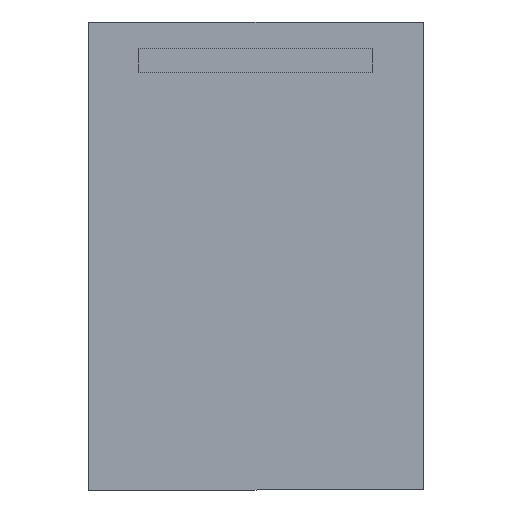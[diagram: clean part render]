
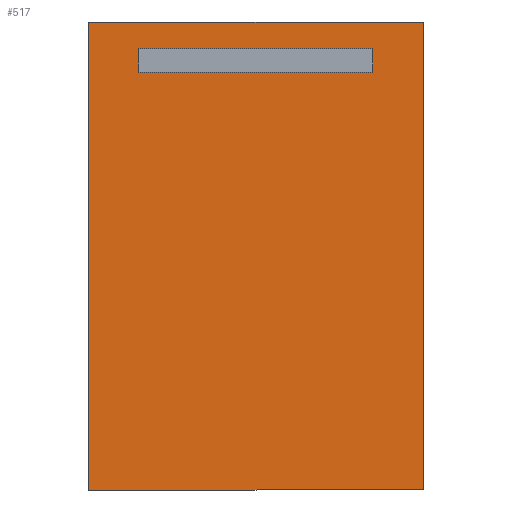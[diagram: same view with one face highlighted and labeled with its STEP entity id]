
A CAD part, front view. The second image highlights one B-rep face of the part: STEP entity #517.
In plain terms, the highlighted planar face has unit normal (0, -1, 0).
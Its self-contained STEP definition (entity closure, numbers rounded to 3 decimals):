
#47=FACE_BOUND('',#92,.T.);
#62=FACE_OUTER_BOUND('',#91,.T.);
#91=EDGE_LOOP('',(#359,#360,#361,#362));
#92=EDGE_LOOP('',(#363,#364,#365,#366));
#115=LINE('',#766,#159);
#119=LINE('',#774,#163);
#122=LINE('',#780,#166);
#125=LINE('',#785,#169);
#127=LINE('',#791,#171);
#131=LINE('',#799,#175);
#134=LINE('',#805,#178);
#137=LINE('',#810,#181);
#159=VECTOR('',#614,10.);
#163=VECTOR('',#620,10.);
#166=VECTOR('',#625,10.);
#169=VECTOR('',#630,10.);
#171=VECTOR('',#636,10.);
#175=VECTOR('',#642,10.);
#178=VECTOR('',#647,10.);
#181=VECTOR('',#652,10.);
#203=VERTEX_POINT('',#764);
#204=VERTEX_POINT('',#765);
#207=VERTEX_POINT('',#773);
#209=VERTEX_POINT('',#779);
#211=VERTEX_POINT('',#789);
#212=VERTEX_POINT('',#790);
#215=VERTEX_POINT('',#798);
#217=VERTEX_POINT('',#804);
#251=EDGE_CURVE('',#203,#204,#115,.T.);
#255=EDGE_CURVE('',#207,#203,#119,.T.);
#258=EDGE_CURVE('',#209,#207,#122,.T.);
#261=EDGE_CURVE('',#204,#209,#125,.T.);
#263=EDGE_CURVE('',#211,#212,#127,.T.);
#267=EDGE_CURVE('',#215,#211,#131,.T.);
#270=EDGE_CURVE('',#217,#215,#134,.T.);
#273=EDGE_CURVE('',#212,#217,#137,.T.);
#359=ORIENTED_EDGE('',*,*,#273,.F.);
#360=ORIENTED_EDGE('',*,*,#263,.F.);
#361=ORIENTED_EDGE('',*,*,#267,.F.);
#362=ORIENTED_EDGE('',*,*,#270,.F.);
#363=ORIENTED_EDGE('',*,*,#251,.T.);
#364=ORIENTED_EDGE('',*,*,#261,.T.);
#365=ORIENTED_EDGE('',*,*,#258,.T.);
#366=ORIENTED_EDGE('',*,*,#255,.T.);
#465=PLANE('',#567);
#517=ADVANCED_FACE('',(#62,#47),#465,.F.);
#567=AXIS2_PLACEMENT_3D('',#813,#656,#657);
#614=DIRECTION('',(0.,0.,-1.));
#620=DIRECTION('',(1.,0.,0.));
#625=DIRECTION('',(0.,0.,1.));
#630=DIRECTION('',(-1.,0.,0.));
#636=DIRECTION('',(0.,0.,1.));
#642=DIRECTION('',(-1.,0.,0.));
#647=DIRECTION('',(0.,0.,-1.));
#652=DIRECTION('',(1.,0.,0.));
#656=DIRECTION('center_axis',(0.,1.,0.));
#657=DIRECTION('ref_axis',(0.,0.,1.));
#764=CARTESIAN_POINT('',(175.,-26.,660.));
#765=CARTESIAN_POINT('',(175.,-26.,625.));
#766=CARTESIAN_POINT('',(175.,-26.,505.));
#773=CARTESIAN_POINT('',(-175.,-26.,660.));
#774=CARTESIAN_POINT('',(-87.5,-26.,660.));
#779=CARTESIAN_POINT('',(-175.,-26.,625.));
#780=CARTESIAN_POINT('',(-175.,-26.,487.5));
#785=CARTESIAN_POINT('',(87.5,-26.,625.));
#789=CARTESIAN_POINT('',(-250.,-26.,0.));
#790=CARTESIAN_POINT('',(-250.,-26.,700.));
#791=CARTESIAN_POINT('',(-250.,-26.,0.));
#798=CARTESIAN_POINT('',(250.,-26.,0.));
#799=CARTESIAN_POINT('',(250.,-26.,0.));
#804=CARTESIAN_POINT('',(250.,-26.,700.));
#805=CARTESIAN_POINT('',(250.,-26.,700.));
#810=CARTESIAN_POINT('',(-250.,-26.,700.));
#813=CARTESIAN_POINT('Origin',(0.,-26.,350.));
